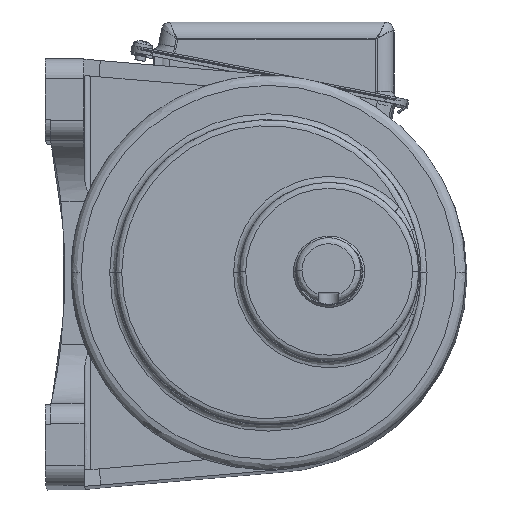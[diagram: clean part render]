
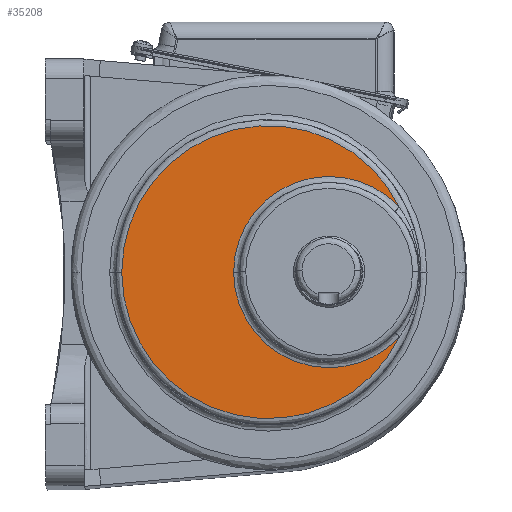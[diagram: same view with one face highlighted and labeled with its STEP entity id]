
A CAD part, top view. The second image highlights one B-rep face of the part: STEP entity #35208.
In plain terms, the highlighted planar face has unit normal (-0.006, 0.012, 1) as drawn and (0, 1, 0) by its records, which use the part's own axes.
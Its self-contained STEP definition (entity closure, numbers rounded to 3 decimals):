
#25458 = VERTEX_POINT ( 'NONE', #43372 ) ;
#25530 = VERTEX_POINT ( 'NONE', #43567 ) ;
#25532 = EDGE_CURVE ( 'NONE', #25458, #25530, #43564, .T. ) ;
#25539 = EDGE_CURVE ( 'NONE', #25540, #25458, #43599, .T. ) ;
#25540 = VERTEX_POINT ( 'NONE', #43623 ) ;
#26274 = VERTEX_POINT ( 'NONE', #45518 ) ;
#26305 = EDGE_CURVE ( 'NONE', #26274, #25540, #45627, .T. ) ;
#26315 = EDGE_CURVE ( 'NONE', #25530, #26274, #45662, .T. ) ;
#34304 = ORIENTED_EDGE ( 'NONE', *, *, #26315, .T. ) ;
#35208 = ADVANCED_FACE ( 'NONE', ( #46822 ), #46818, .T. ) ;
#35257 = ORIENTED_EDGE ( 'NONE', *, *, #25532, .T. ) ;
#35438 = ORIENTED_EDGE ( 'NONE', *, *, #25539, .T. ) ;
#35573 = ORIENTED_EDGE ( 'NONE', *, *, #26305, .T. ) ;
#35609 = EDGE_LOOP ( 'NONE', ( #35573, #35438, #35257, #34304 ) ) ;
#43372 = CARTESIAN_POINT ( 'NONE',  ( 31.828, 0., -34.583 ) ) ;
#43562 = CARTESIAN_POINT ( 'NONE',  ( 0., 0., 0. ) ) ;
#43563 = AXIS2_PLACEMENT_3D ( 'NONE', #43562, #43607, #43606 ) ;
#43564 = CIRCLE ( 'NONE', #43563, 47. ) ;
#43567 = CARTESIAN_POINT ( 'NONE',  ( 0., 0., 47. ) ) ;
#43595 = CARTESIAN_POINT ( 'NONE',  ( 0., 0., 30. ) ) ;
#43596 = DIRECTION ( 'NONE',  ( 0., 0., 1. ) ) ;
#43597 = DIRECTION ( 'NONE',  ( 0., 1., 0. ) ) ;
#43598 = AXIS2_PLACEMENT_3D ( 'NONE', #43595, #43597, #43596 ) ;
#43599 = CIRCLE ( 'NONE', #43598, 72. ) ;
#43606 = DIRECTION ( 'NONE',  ( 0., 0., 1. ) ) ;
#43607 = DIRECTION ( 'NONE',  ( 0., -1., 0. ) ) ;
#43623 = CARTESIAN_POINT ( 'NONE',  ( 0., 0., 102. ) ) ;
#45518 = CARTESIAN_POINT ( 'NONE',  ( -31.828, 0., -34.583 ) ) ;
#45624 = DIRECTION ( 'NONE',  ( 0., 0., 1. ) ) ;
#45625 = DIRECTION ( 'NONE',  ( 0., 1., 0. ) ) ;
#45626 = AXIS2_PLACEMENT_3D ( 'NONE', #45631, #45625, #45624 ) ;
#45627 = CIRCLE ( 'NONE', #45626, 72. ) ;
#45631 = CARTESIAN_POINT ( 'NONE',  ( 0., 0., 30. ) ) ;
#45658 = DIRECTION ( 'NONE',  ( 0., 0., 1. ) ) ;
#45659 = DIRECTION ( 'NONE',  ( 0., -1., 0. ) ) ;
#45660 = CARTESIAN_POINT ( 'NONE',  ( 0., 0., 0. ) ) ;
#45661 = AXIS2_PLACEMENT_3D ( 'NONE', #45660, #45659, #45658 ) ;
#45662 = CIRCLE ( 'NONE', #45661, 47. ) ;
#46814 = DIRECTION ( 'NONE',  ( 0., 0., 1. ) ) ;
#46815 = DIRECTION ( 'NONE',  ( 0., 1., 0. ) ) ;
#46816 = CARTESIAN_POINT ( 'NONE',  ( 78., 0., -48.063 ) ) ;
#46817 = AXIS2_PLACEMENT_3D ( 'NONE', #46816, #46815, #46814 ) ;
#46818 = PLANE ( 'NONE',  #46817 ) ;
#46822 = FACE_OUTER_BOUND ( 'NONE', #35609, .T. ) ;
